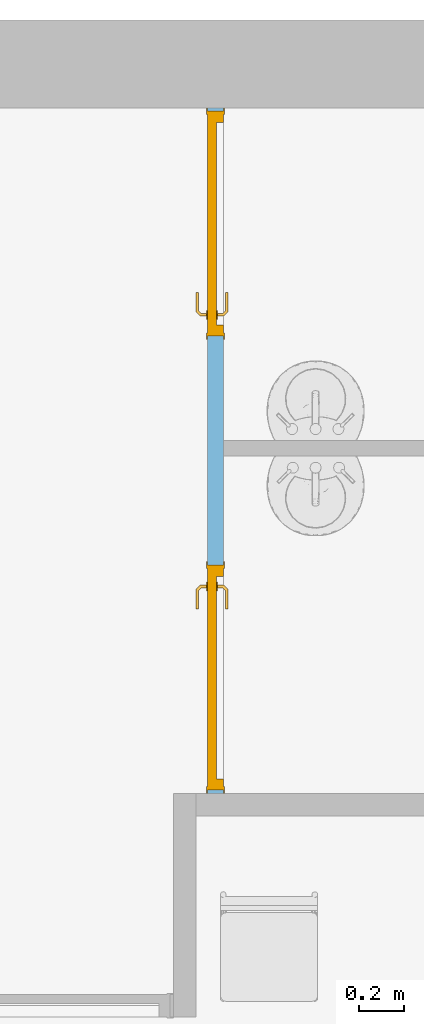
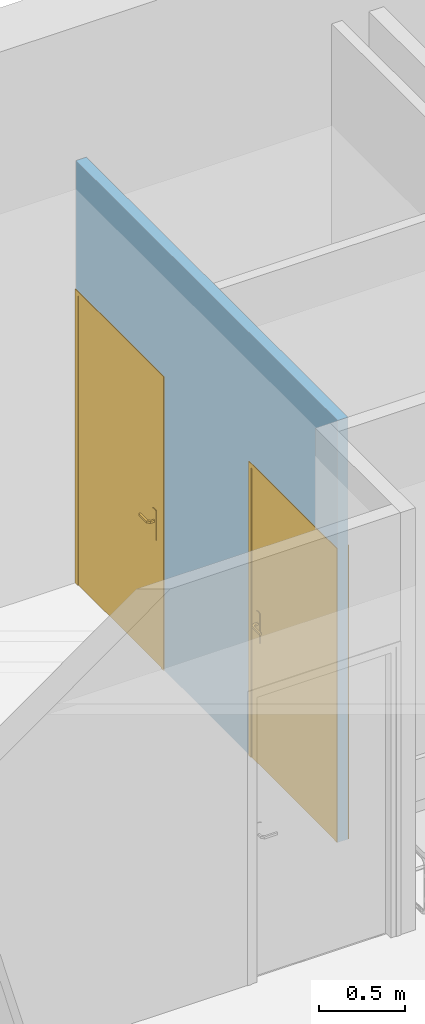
# One storey, part 24 of 32: 2 doors, 2 openings, plus 1 element that does not belong to this part.
"""IFC2X3 building model written with IfcOpenShell, lengths in metres."""

from ifc_helpers import new_model, entity, si_unit, converted_unit, derived_unit, direction, frame, frame_2d, origin, origin_2d_with_axis, place, context, subcontext, project, spatial, polyline, circle_curve, parameter, trimmed, segment, composite_curve, rectangle, outline, extrude, faceted_brep, source, transform, mapped, material, material_list, layer, layer_set, layer_usage, type_object, type_shapes, element, fill, save


model = new_model("IFC2X3")

# Units and contexts
model_context = context("Model", 3, precision=1e-05, world=origin(), true_north=direction((6.12303176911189e-17, 1.0)))
plan_context = context("Plan", 3, precision=1e-05, world=origin(), true_north=direction((6.12303176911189e-17, 1.0)))
body_context = subcontext(model_context, "Body", "Model", "MODEL_VIEW")
ifc_project = project(units=[si_unit("LENGTHUNIT", "METRE"), si_unit("AREAUNIT", "SQUARE_METRE"), si_unit("VOLUMEUNIT", "CUBIC_METRE"), converted_unit("PLANEANGLEUNIT", "DEGREE", entity("IfcRatioMeasure", 0.0174532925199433), si_unit("PLANEANGLEUNIT", "RADIAN"), dimensions=[0, 0, 0, 0, 0, 0, 0]), si_unit("MASSUNIT", "GRAM", prefix="KILO"), derived_unit("MASSDENSITYUNIT", [(si_unit("MASSUNIT", "GRAM", prefix="KILO"), 1), (si_unit("LENGTHUNIT", "METRE"), -3)]), derived_unit("MOMENTOFINERTIAUNIT", [(si_unit("LENGTHUNIT", "METRE"), 4)]), si_unit("TIMEUNIT", "SECOND"), si_unit("FREQUENCYUNIT", "HERTZ"), si_unit("THERMODYNAMICTEMPERATUREUNIT", "DEGREE_CELSIUS"), derived_unit("THERMALTRANSMITTANCEUNIT", [(si_unit("MASSUNIT", "GRAM", prefix="KILO"), 1), (si_unit("THERMODYNAMICTEMPERATUREUNIT", "KELVIN"), -1), (si_unit("TIMEUNIT", "SECOND"), -3)]), derived_unit("VOLUMETRICFLOWRATEUNIT", [(si_unit("LENGTHUNIT", "METRE"), 3), (si_unit("TIMEUNIT", "SECOND"), -1)]), si_unit("ELECTRICCURRENTUNIT", "AMPERE"), si_unit("ELECTRICVOLTAGEUNIT", "VOLT"), si_unit("POWERUNIT", "WATT"), si_unit("FORCEUNIT", "NEWTON", prefix="KILO"), si_unit("ILLUMINANCEUNIT", "LUX"), si_unit("LUMINOUSFLUXUNIT", "LUMEN"), si_unit("LUMINOUSINTENSITYUNIT", "CANDELA"), derived_unit("USERDEFINED", [(si_unit("MASSUNIT", "GRAM", prefix="KILO"), -1), (si_unit("LENGTHUNIT", "METRE"), -2), (si_unit("TIMEUNIT", "SECOND"), 3), (si_unit("LUMINOUSFLUXUNIT", "LUMEN"), 1)]), derived_unit("LINEARVELOCITYUNIT", [(si_unit("LENGTHUNIT", "METRE"), 1), (si_unit("TIMEUNIT", "SECOND"), -1)]), si_unit("PRESSUREUNIT", "PASCAL"), derived_unit("USERDEFINED", [(si_unit("LENGTHUNIT", "METRE"), -2), (si_unit("MASSUNIT", "GRAM", prefix="KILO"), 1), (si_unit("TIMEUNIT", "SECOND"), -2)]), derived_unit("LINEARFORCEUNIT", [(si_unit("MASSUNIT", "GRAM", prefix="KILO"), 1), (si_unit("LENGTHUNIT", "METRE"), 1), (si_unit("TIMEUNIT", "SECOND"), -2), (si_unit("LENGTHUNIT", "METRE"), -1)]), derived_unit("PLANARFORCEUNIT", [(si_unit("MASSUNIT", "GRAM", prefix="KILO"), 1), (si_unit("LENGTHUNIT", "METRE"), 1), (si_unit("TIMEUNIT", "SECOND"), -2), (si_unit("LENGTHUNIT", "METRE"), -2)])], contexts=[model_context, plan_context])

# Site, building, storey
site_placement = place(None, origin())
site = spatial("IfcSite", under=ifc_project, at=site_placement, Name="Default", CompositionType="ELEMENT")
building_placement = place(site_placement, origin())
building = spatial("IfcBuilding", under=site, at=building_placement, CompositionType="ELEMENT")
storey_placement = place(building_placement, origin())
storey = spatial("IfcBuildingStorey", under=building, at=storey_placement, Name="0 Mairie RDC 0.00", CompositionType="ELEMENT", Elevation=-1.94916083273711e-14)

# Wall, openings, doors
ifc_material_1 = material(Name="Plâtre")
ifc_layer_1 = layer(ifc_material_1, 0.01)
ifc_material_2 = material(Name="Maçonnerie - Isolant")
ifc_layer_2 = layer(ifc_material_2, 0.05)
ifc_layer_3 = layer(ifc_material_1, 0.01)
ifc_layer_set = layer_set([ifc_layer_1, ifc_layer_2, ifc_layer_3], Name="Mur de base:A cloison placostil 72 sèche")
ifc_layer_usage = layer_usage(ifc_layer_set, "AXIS2", "NEGATIVE", 0.035)
wall_type = type_object("IfcWallType", Name="Murs : Mur de base : A cloison placostil 72 sèche", PredefinedType="STANDARD", material=ifc_layer_set)
wall_placement = place(storey_placement, frame((-15.9809503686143, -1.97276374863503, 0.0), z_axis=(0.0, 0.0, 1.0), x_axis=(0.0, -1.0, 0.0)))
wall = element("IfcWallStandardCase", 1, at=wall_placement, inside=storey, type_object=wall_type, material=ifc_layer_usage, Name="Murs : Mur de base : A cloison placostil 72 sèche", ObjectType="Mur de base:A cloison placostil 72 sèche", context=body_context, shape_type="SweptSolid", body=[
    extrude(rectangle(XDim=3.04715817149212, YDim=0.0700000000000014, at=frame_2d((1.52357908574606, -1.73472347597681e-17), x_axis=(-1.0, 0.0))), origin(), (0.0, 0.0, 1.0), 3.0),
])
opening_1_placement = place(wall_placement, frame((1.01499999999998, 0.0349999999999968, 0.0)))
opening_1 = element("IfcOpeningElement", 2, at=opening_1_placement, cuts=wall, Name="Portes : Int. Simple : PP (0.89m x 2.04m):1", ObjectType="Opening", context=body_context, shape_type="SweptSolid", body=[
    extrude(rectangle(XDim=2.075, YDim=1.0, at=frame_2d((1.0375, 0.5), x_axis=(1.0, 0.0))), frame((0.0, 0.0, 0.0), z_axis=(0.0, -1.0, 0.0), x_axis=(0.0, 0.0, 1.0)), (0.0, 0.0, 1.0), 0.07),
])
opening_2_placement = place(wall_placement, frame((3.03215817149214, 0.0349999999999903, 0.0)))
opening_2 = element("IfcOpeningElement", 3, at=opening_2_placement, cuts=wall, Name="Portes : Int. Simple : PP (0.89m x 2.04m):1", ObjectType="Opening", context=body_context, shape_type="SweptSolid", body=[
    extrude(rectangle(XDim=2.075, YDim=1.0, at=frame_2d((1.0375, 0.5), x_axis=(1.0, 0.0))), frame((0.0, 0.0, 0.0), z_axis=(0.0, -1.0, 0.0), x_axis=(0.0, 0.0, 1.0)), (0.0, 0.0, 1.0), 0.07),
])
ifc_material_3 = material(Name="Finition Peinture - Blanc satiné")
ifc_material_4 = material(Name="Bois - Cadre de porte")
ifc_material_list_1 = material_list([ifc_material_3, ifc_material_4])
ifc_material_5 = material(Name="Bois - Panneau de porte")
ifc_material_list_2 = material_list([ifc_material_4, ifc_material_5, ifc_material_3])
door_style_1 = type_object("IfcDoorStyle", Name="Portes : Int. Simple : PP (0.89m x 2.04m)", ConstructionType="NOTDEFINED", OperationType="NOTDEFINED", ParameterTakesPrecedence=False, Sizeable=False, material=ifc_material_list_2)
shared_shape_1 = source(origin(), body_context, "Body", "SolidModel", [
    extrude(outline(composite_curve([segment(polyline([(-0.104999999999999, -0.02), (0.104999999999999, -0.0199999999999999)]), True, "CONTINUOUS"), segment(trimmed(circle_curve(frame_2d((0.0703589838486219, 0.0), x_axis=(0.0, 1.0)), 0.0399999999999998), [parameter(240.000000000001)], [parameter(300.0)], True, "PARAMETER"), True, "CONTINUOUS"), segment(polyline([(0.104999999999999, 0.0199999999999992), (-0.105, 0.0200000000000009)]), True, "CONTINUOUS"), segment(trimmed(circle_curve(frame_2d((-0.0703589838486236, 0.0), x_axis=(0.0, 1.0)), 0.0399999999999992), [parameter(59.9999999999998)], [parameter(120.0)], True, "PARAMETER"), True, "CONTINUOUS")], self_intersect=False)), frame((0.975000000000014, 0.0, 0.975000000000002), z_axis=(0.0, -1.0, 0.0), x_axis=(0.0, 0.0, 1.0)), (0.0, 0.0, 1.0), 0.00499999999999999),
    extrude(outline(composite_curve([segment(polyline([(-0.105, -0.02), (0.105, -0.02)]), True, "CONTINUOUS"), segment(trimmed(circle_curve(frame_2d((0.0703589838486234, 0.0), x_axis=(0.0, -1.0)), 0.0399999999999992), [parameter(59.9999999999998)], [parameter(120.0)], True, "PARAMETER"), True, "CONTINUOUS"), segment(polyline([(0.104999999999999, 0.0200000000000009), (-0.105, 0.0199999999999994)]), True, "CONTINUOUS"), segment(trimmed(circle_curve(frame_2d((-0.0703589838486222, 0.0), x_axis=(0.0, -1.0)), 0.0399999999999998), [parameter(240.0)], [parameter(300.0)], True, "PARAMETER"), True, "CONTINUOUS")], self_intersect=False)), frame((0.975000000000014, 0.0449999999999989, 0.975000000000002), z_axis=(0.0, -1.0, 0.0), x_axis=(0.0, 0.0, -1.0)), (0.0, 0.0, 1.0), 0.00500000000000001),
    extrude(rectangle(XDim=0.93, YDim=0.04, at=origin_2d_with_axis()), frame((0.570000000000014, 0.02, 0.0), z_axis=(0.0, 0.0, 1.0), x_axis=(-1.0, 0.0, 0.0)), (0.0, 0.0, 1.0), 2.04),
    extrude(outline(polyline([(0.484999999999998, -1.03750000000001), (0.514999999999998, -1.03750000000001), (0.514999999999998, 1.0525), (-0.514999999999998, 1.0525), (-0.514999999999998, -1.0375), (-0.484999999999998, -1.03750000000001), (-0.484999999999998, 1.02250000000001), (0.484999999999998, 1.02250000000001), (0.484999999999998, -1.03750000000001)])), frame((0.570000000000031, 0.0749999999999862, 1.03750000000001), z_axis=(0.0, -1.0, 0.0), x_axis=(1.0, 0.0, 0.0)), (0.0, 0.0, 1.0), 0.00500000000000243),
    extrude(outline(polyline([(0.484999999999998, -1.03750000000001), (0.514999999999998, -1.03750000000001), (0.514999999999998, 1.0525), (-0.514999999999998, 1.0525), (-0.514999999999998, -1.0375), (-0.484999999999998, -1.03750000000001), (-0.484999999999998, 1.02250000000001), (0.484999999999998, 1.02250000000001), (0.484999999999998, -1.03750000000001)])), frame((0.570000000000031, 0.0, 1.03750000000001), z_axis=(0.0, -1.0, 0.0), x_axis=(1.0, 0.0, 0.0)), (0.0, 0.0, 1.0), 0.00499999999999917),
    faceted_brep([(0.972974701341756, -0.00500000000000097, 1.00778044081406), (0.977025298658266, -0.00500000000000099, 1.00778044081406), (0.981000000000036, -0.00500000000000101, 1.00699999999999), (0.981000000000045, -0.00500000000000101, 0.992999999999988), (0.977025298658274, -0.00500000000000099, 0.99221955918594), (0.972974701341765, -0.00500000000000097, 0.992219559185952), (0.968999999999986, -0.00500000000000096, 0.993000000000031), (0.968999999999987, -0.00500000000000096, 1.007), (0.977025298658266, -0.0310045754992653, 1.00778044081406), (0.981000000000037, -0.0326509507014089, 1.007), (0.972974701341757, -0.029326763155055, 1.00778044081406), (0.959298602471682, -0.0430028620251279, 1.00778044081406), (0.960976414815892, -0.0470534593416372, 1.00778044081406), (0.968999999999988, -0.0276803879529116, 1.007), (0.968999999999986, -0.0276803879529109, 0.993000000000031), (0.972974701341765, -0.0293267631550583, 0.992219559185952), (0.977025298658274, -0.0310045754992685, 0.99221955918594), (0.960976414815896, -0.047053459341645, 0.99221955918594), (0.959298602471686, -0.0430028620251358, 0.992219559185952), (0.981000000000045, -0.0326509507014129, 0.992999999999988), (0.962622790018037, -0.0510281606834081, 1.007), (0.957652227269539, -0.0390281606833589, 1.007), (0.957652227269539, -0.0390281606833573, 0.993000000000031), (0.96262279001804, -0.0510281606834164, 0.992999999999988), (0.874981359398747, -0.0510281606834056, 1.007), (0.874981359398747, -0.0470534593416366, 1.00778044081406), (0.874981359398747, -0.0430028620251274, 1.00778044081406), (0.874981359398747, -0.039028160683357, 1.00699999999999), (0.874981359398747, -0.0390281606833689, 0.993000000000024), (0.874981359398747, -0.0430028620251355, 0.992219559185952), (0.874981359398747, -0.0470534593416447, 0.99221955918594), (0.874981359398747, -0.0510281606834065, 0.992999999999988), (0.917139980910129, -0.0450281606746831, 1.0078786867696), (0.922692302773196, -0.0510281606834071, 1.007), (0.916316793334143, -0.039028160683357, 1.007), (0.916316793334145, -0.039028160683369, 0.993000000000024), (0.917139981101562, -0.0450281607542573, 0.992121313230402), (0.922692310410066, -0.0510281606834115, 0.992999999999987)], [[[0, 1, 2, 3, 4, 5, 6, 7]], [[2, 1, 8, 9]], [[1, 0, 10, 11, 12, 8]], [[0, 7, 13, 10]], [[14, 13, 7, 6]], [[5, 15, 14, 6]], [[5, 4, 16, 17, 18, 15]], [[3, 19, 16, 4]], [[9, 19, 3, 2]], [[9, 8, 12, 20]], [[10, 13, 21, 11]], [[22, 21, 13, 14]], [[14, 15, 18, 22]], [[16, 19, 23, 17]], [[20, 23, 19, 9]], [[24, 25, 26, 27, 28, 29, 30, 31]], [[32, 25, 33]], [[33, 25, 24]], [[33, 20, 12]], [[11, 34, 32]], [[34, 11, 21]], [[27, 26, 34]], [[32, 26, 25]], [[32, 34, 26]], [[32, 33, 12]], [[11, 32, 12]], [[21, 22, 35, 28, 27, 34]], [[36, 29, 35]], [[30, 36, 37]], [[18, 35, 22]], [[29, 28, 35]], [[30, 37, 31]], [[37, 17, 23]], [[36, 17, 37]], [[36, 18, 17]], [[36, 35, 18]], [[29, 36, 30]], [[23, 20, 33, 24, 31, 37]]]),
    faceted_brep([(0.972974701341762, 0.044999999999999, 0.992219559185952), (0.977025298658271, 0.044999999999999, 0.99221955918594), (0.981000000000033, 0.044999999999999, 0.992999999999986), (0.981000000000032, 0.044999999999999, 1.007), (0.977025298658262, 0.044999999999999, 1.00778044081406), (0.972974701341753, 0.044999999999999, 1.00778044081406), (0.968999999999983, 0.044999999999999, 1.007), (0.968999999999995, 0.044999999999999, 0.993000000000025), (0.968999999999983, 0.0674852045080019, 1.007), (0.968999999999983, 0.067485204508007, 0.993000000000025), (0.972974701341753, 0.0691315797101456, 1.00778044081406), (0.977025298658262, 0.0708093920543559, 1.00778044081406), (0.960838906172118, 0.0869957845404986, 1.00778044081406), (0.959161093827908, 0.0829451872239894, 1.00778044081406), (0.981000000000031, 0.0724557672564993, 1.007), (0.981000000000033, 0.0724557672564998, 0.992999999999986), (0.977025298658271, 0.0708093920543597, 0.99221955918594), (0.972974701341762, 0.0691315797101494, 0.992219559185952), (0.959161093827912, 0.0829451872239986, 0.992219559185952), (0.960838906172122, 0.0869957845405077, 0.99221955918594), (0.957514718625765, 0.0789704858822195, 1.007), (0.957514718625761, 0.0789704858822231, 0.993000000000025), (0.962485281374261, 0.0909704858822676, 1.007), (0.962485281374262, 0.090970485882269, 0.992999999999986), (0.874954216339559, 0.08294518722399, 1.00778044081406), (0.874954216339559, 0.0869957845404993, 1.00778044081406), (0.874954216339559, 0.0909704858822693, 1.007), (0.874954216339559, 0.0909704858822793, 0.992999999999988), (0.874954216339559, 0.0869957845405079, 0.99221955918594), (0.874954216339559, 0.0829451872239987, 0.992219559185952), (0.874954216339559, 0.0789704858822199, 0.993000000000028), (0.874954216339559, 0.078970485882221, 1.007), (0.916234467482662, 0.0789704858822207, 1.007), (0.916234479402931, 0.0789704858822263, 0.993000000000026), (0.917057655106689, 0.0849704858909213, 1.0078786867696), (0.922554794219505, 0.0909704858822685, 1.007), (0.922554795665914, 0.0909704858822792, 0.992999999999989), (0.917057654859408, 0.0849704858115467, 0.992121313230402)], [[[0, 1, 2, 3, 4, 5, 6, 7]], [[8, 9, 7, 6]], [[5, 10, 8, 6]], [[5, 4, 11, 12, 13, 10]], [[3, 14, 11, 4]], [[14, 3, 2, 15]], [[2, 1, 16, 15]], [[1, 0, 17, 18, 19, 16]], [[0, 7, 9, 17]], [[20, 21, 9, 8]], [[8, 10, 13, 20]], [[14, 22, 12, 11]], [[23, 22, 14, 15]], [[15, 16, 19, 23]], [[17, 9, 21, 18]], [[24, 25, 26, 27, 28, 29, 30, 31]], [[21, 20, 32, 31, 30, 33]], [[34, 24, 32]], [[25, 34, 35]], [[13, 32, 20]], [[24, 31, 32]], [[25, 35, 26]], [[35, 12, 22]], [[34, 12, 35]], [[34, 13, 12]], [[34, 32, 13]], [[24, 34, 25]], [[22, 23, 36, 27, 26, 35]], [[37, 28, 36]], [[36, 28, 27]], [[36, 23, 19]], [[18, 33, 37]], [[33, 18, 21]], [[30, 29, 33]], [[37, 29, 28]], [[37, 33, 29]], [[37, 36, 19]], [[18, 37, 19]]]),
    faceted_brep([(1.07000000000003, 0.0, 0.0), (1.03500000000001, 0.0, 0.0), (1.03500000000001, 0.04, 0.0), (1.02000000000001, 0.04, 0.0), (1.02000000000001, 0.0699999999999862, 0.0), (1.07000000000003, 0.0699999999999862, 0.0), (1.07000000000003, 0.0699999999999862, 2.07500000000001), (1.07000000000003, 0.0, 2.07500000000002), (1.02000000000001, 0.0699999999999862, 2.025), (0.120000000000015, 0.0699999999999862, 2.025), (0.120000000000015, 0.0699999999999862, 0.0), (0.0699999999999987, 0.0699999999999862, 0.0), (0.0699999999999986, 0.0699999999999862, 2.07500000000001), (1.02000000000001, 0.04, 2.025), (1.03500000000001, 0.04, 2.04), (0.105000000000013, 0.04, 2.04), (0.105000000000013, 0.04, 0.0), (0.120000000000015, 0.04, 0.0), (0.120000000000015, 0.04, 2.025), (1.03500000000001, 0.0, 2.04), (0.0699999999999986, 0.0, 2.07500000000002), (0.0699999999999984, 0.0, 0.0), (0.105000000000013, 0.0, 0.0), (0.105000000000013, 0.0, 2.04)], [[[0, 1, 2, 3, 4, 5]], [[5, 6, 7, 0]], [[4, 8, 9, 10, 11, 12, 6, 5]], [[3, 13, 8, 4]], [[2, 14, 15, 16, 17, 18, 13, 3]], [[1, 19, 14, 2]], [[0, 7, 20, 21, 22, 23, 19, 1]], [[12, 11, 21, 20]], [[21, 11, 10, 17, 16, 22]], [[18, 17, 10, 9]], [[23, 22, 16, 15]], [[6, 12, 20, 7]], [[13, 18, 9, 8]], [[19, 23, 15, 14]]]),
])
type_shapes(door_style_1, [shared_shape_1])
door_1_placement = place(opening_1_placement, frame((-1.07000000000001, -0.0699999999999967, 0.0)))
door_1 = element("IfcDoor", 4, at=door_1_placement, inside=storey, type_object=door_style_1, material=ifc_material_list_1, Name="Portes : Int. Simple : PP (0.89m x 2.04m)", ObjectType="Int. Simple:PP (0.89m x 2.04m)", OverallHeight=2.075, OverallWidth=1.0, context=body_context, shape_type="MappedRepresentation", body=[
    mapped(shared_shape_1, transform((0.0, 0.0, 0.0), scale=1.0)),
])
fill(opening_1, door_1)
ifc_material_list_3 = material_list([ifc_material_3, ifc_material_4])
ifc_material_list_4 = material_list([ifc_material_5, ifc_material_4, ifc_material_3])
door_style_2 = type_object("IfcDoorStyle", Name="Portes : Int. Simple : PP (0.89m x 2.04m)", ConstructionType="NOTDEFINED", OperationType="NOTDEFINED", ParameterTakesPrecedence=False, Sizeable=False, material=ifc_material_list_4)
shared_shape_2 = source(origin(), body_context, "Body", "SolidModel", [
    extrude(outline(composite_curve([segment(polyline([(-0.104999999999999, -0.0199999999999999), (0.104999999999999, -0.0199999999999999)]), True, "CONTINUOUS"), segment(trimmed(circle_curve(frame_2d((0.0703589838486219, 0.0), x_axis=(0.0, 1.0)), 0.0399999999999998), [parameter(240.000000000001)], [parameter(300.0)], True, "PARAMETER"), True, "CONTINUOUS"), segment(polyline([(0.104999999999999, 0.0199999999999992), (-0.105, 0.020000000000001)]), True, "CONTINUOUS"), segment(trimmed(circle_curve(frame_2d((-0.0703589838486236, 0.0), x_axis=(0.0, 1.0)), 0.0399999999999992), [parameter(59.9999999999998)], [parameter(120.0)], True, "PARAMETER"), True, "CONTINUOUS")], self_intersect=False)), frame((0.0949999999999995, -0.00500000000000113, 0.975000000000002), z_axis=(0.0, 1.0, 0.0), x_axis=(0.0, 0.0, 1.0)), (0.0, 0.0, 1.0), 0.00499999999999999),
    extrude(outline(composite_curve([segment(polyline([(-0.105, -0.0200000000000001), (0.105, -0.0200000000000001)]), True, "CONTINUOUS"), segment(trimmed(circle_curve(frame_2d((0.0703589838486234, 0.0), x_axis=(0.0, -1.0)), 0.0399999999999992), [parameter(59.9999999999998)], [parameter(120.0)], True, "PARAMETER"), True, "CONTINUOUS"), segment(polyline([(0.104999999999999, 0.0200000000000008), (-0.105, 0.0199999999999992)]), True, "CONTINUOUS"), segment(trimmed(circle_curve(frame_2d((-0.0703589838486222, 0.0), x_axis=(0.0, -1.0)), 0.0399999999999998), [parameter(240.0)], [parameter(300.0)], True, "PARAMETER"), True, "CONTINUOUS")], self_intersect=False)), frame((0.0949999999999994, 0.0399999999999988, 0.975000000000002), z_axis=(0.0, 1.0, 0.0), x_axis=(0.0, 0.0, -1.0)), (0.0, 0.0, 1.0), 0.00500000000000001),
    extrude(rectangle(XDim=0.04, YDim=0.93, at=origin_2d_with_axis()), frame((0.5, 0.02, 0.0), z_axis=(0.0, 0.0, 1.0), x_axis=(0.0, -1.0, 0.0)), (0.0, 0.0, 1.0), 2.04),
    extrude(outline(polyline([(-1.03750000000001, -0.514999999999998), (1.0525, -0.514999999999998), (1.0525, 0.514999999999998), (-1.0375, 0.514999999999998), (-1.03750000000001, 0.484999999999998), (1.02250000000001, 0.484999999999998), (1.02250000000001, -0.484999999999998), (-1.03750000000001, -0.484999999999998), (-1.03750000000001, -0.514999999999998)])), frame((0.499999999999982, 0.0699999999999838, 1.03750000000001), z_axis=(0.0, 1.0, 0.0), x_axis=(0.0, 0.0, 1.0)), (0.0, 0.0, 1.0), 0.00500000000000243),
    extrude(outline(polyline([(-1.03750000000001, -0.514999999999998), (1.0525, -0.514999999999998), (1.0525, 0.514999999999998), (-1.0375, 0.514999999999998), (-1.03750000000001, 0.484999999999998), (1.02250000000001, 0.484999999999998), (1.02250000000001, -0.484999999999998), (-1.03750000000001, -0.484999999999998), (-1.03750000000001, -0.514999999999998)])), frame((0.499999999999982, -0.00499999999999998, 1.03750000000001), z_axis=(0.0, 1.0, 0.0), x_axis=(0.0, 0.0, 1.0)), (0.0, 0.0, 1.0), 0.00499999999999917),
    faceted_brep([(0.0929747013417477, -0.005000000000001, 1.00778044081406), (0.097025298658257, -0.00500000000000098, 1.00778044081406), (0.101000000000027, -0.00500000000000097, 1.00699999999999), (0.101000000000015, -0.00500000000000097, 0.993000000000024), (0.0970252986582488, -0.00500000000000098, 0.992219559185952), (0.0929747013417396, -0.005000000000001, 0.99221955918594), (0.0889999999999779, -0.00500000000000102, 0.992999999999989), (0.0889999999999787, -0.00500000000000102, 1.007), (0.0889999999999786, -0.0326509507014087, 1.007), (0.0929747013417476, -0.0310045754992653, 1.00778044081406), (0.109023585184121, -0.0470534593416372, 1.00778044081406), (0.110701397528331, -0.043002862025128, 1.00778044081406), (0.0970252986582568, -0.029326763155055, 1.00778044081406), (0.101000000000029, -0.0276803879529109, 1.007), (0.101000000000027, -0.0276803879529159, 0.993000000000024), (0.0970252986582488, -0.0293267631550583, 0.992219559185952), (0.110701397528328, -0.0430028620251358, 0.992219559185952), (0.109023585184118, -0.047053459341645, 0.99221955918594), (0.0929747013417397, -0.0310045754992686, 0.99221955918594), (0.0889999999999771, -0.0326509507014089, 0.992999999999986), (0.107377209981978, -0.0510281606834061, 1.007), (0.112347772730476, -0.0390281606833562, 1.007), (0.112347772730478, -0.0390281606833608, 0.993000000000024), (0.107377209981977, -0.0510281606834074, 0.992999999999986), (0.195018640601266, -0.0510281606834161, 0.992999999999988), (0.195018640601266, -0.0470534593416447, 0.99221955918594), (0.195018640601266, -0.0430028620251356, 0.992219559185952), (0.195018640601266, -0.039028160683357, 0.993000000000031), (0.195018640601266, -0.0390281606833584, 1.007), (0.195018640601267, -0.0430028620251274, 1.00778044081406), (0.195018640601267, -0.0470534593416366, 1.00778044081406), (0.195018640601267, -0.0510281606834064, 1.00699999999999), (0.147307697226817, -0.0510281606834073, 1.007), (0.152860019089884, -0.0450281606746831, 1.0078786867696), (0.15368320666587, -0.0390281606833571, 1.007), (0.153683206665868, -0.039028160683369, 0.993000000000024), (0.152860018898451, -0.0450281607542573, 0.992121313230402), (0.147307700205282, -0.0510281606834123, 0.992999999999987)], [[[0, 1, 2, 3, 4, 5, 6, 7]], [[8, 9, 0, 7]], [[9, 10, 11, 12, 1, 0]], [[12, 13, 2, 1]], [[3, 2, 13, 14]], [[14, 15, 4, 3]], [[15, 16, 17, 18, 5, 4]], [[18, 19, 6, 5]], [[7, 6, 19, 8]], [[20, 10, 9, 8]], [[11, 21, 13, 12]], [[14, 13, 21, 22]], [[22, 16, 15, 14]], [[17, 23, 19, 18]], [[8, 19, 23, 20]], [[24, 25, 26, 27, 28, 29, 30, 31]], [[32, 30, 33]], [[31, 30, 32]], [[10, 20, 32]], [[33, 34, 11]], [[21, 11, 34]], [[34, 29, 28]], [[30, 29, 33]], [[29, 34, 33]], [[10, 32, 33]], [[10, 33, 11]], [[22, 21, 34, 28, 27, 35]], [[35, 26, 36]], [[37, 36, 25]], [[22, 35, 16]], [[35, 27, 26]], [[24, 37, 25]], [[23, 17, 37]], [[37, 17, 36]], [[17, 16, 36]], [[16, 35, 36]], [[25, 36, 26]], [[20, 23, 37, 24, 31, 32]]]),
    faceted_brep([(0.092974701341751, 0.044999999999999, 1.00778044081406), (0.0889999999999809, 0.044999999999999, 1.007), (0.0889999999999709, 0.044999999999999, 0.992999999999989), (0.0929747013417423, 0.044999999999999, 0.99221955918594), (0.0970252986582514, 0.044999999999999, 0.992219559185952), (0.10100000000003, 0.044999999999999, 0.993000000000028), (0.101000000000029, 0.044999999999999, 1.007), (0.0970252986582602, 0.044999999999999, 1.00778044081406), (0.10100000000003, 0.067485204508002, 0.993000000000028), (0.10100000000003, 0.0674852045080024, 1.007), (0.0970252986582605, 0.0691315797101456, 1.00778044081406), (0.110838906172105, 0.0829451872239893, 1.00778044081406), (0.109161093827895, 0.0869957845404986, 1.00778044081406), (0.0929747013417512, 0.0708093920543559, 1.00778044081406), (0.088999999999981, 0.0724557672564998, 1.007), (0.0889999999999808, 0.072455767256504, 0.992999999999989), (0.092974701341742, 0.0708093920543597, 0.99221955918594), (0.109161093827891, 0.0869957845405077, 0.99221955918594), (0.110838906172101, 0.0829451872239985, 0.992219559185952), (0.0970252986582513, 0.0691315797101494, 0.992219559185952), (0.112485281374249, 0.0789704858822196, 0.993000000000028), (0.112485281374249, 0.0789704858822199, 1.007), (0.107514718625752, 0.0909704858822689, 1.007), (0.107514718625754, 0.090970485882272, 0.992999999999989), (0.195045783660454, 0.078970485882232, 0.993000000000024), (0.195045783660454, 0.0829451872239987, 0.992219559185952), (0.195045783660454, 0.0869957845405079, 0.99221955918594), (0.195045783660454, 0.0909704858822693, 0.992999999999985), (0.195045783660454, 0.0909704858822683, 1.007), (0.195045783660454, 0.0869957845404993, 1.00778044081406), (0.195045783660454, 0.08294518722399, 1.00778044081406), (0.195045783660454, 0.0789704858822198, 1.007), (0.153765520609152, 0.0789704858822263, 0.993000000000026), (0.153765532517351, 0.0789704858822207, 1.007), (0.152942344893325, 0.0849704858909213, 1.0078786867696), (0.147445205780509, 0.0909704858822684, 1.007), (0.147445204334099, 0.0909704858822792, 0.992999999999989), (0.152942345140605, 0.0849704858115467, 0.992121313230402)], [[[0, 1, 2, 3, 4, 5, 6, 7]], [[6, 5, 8, 9]], [[9, 10, 7, 6]], [[10, 11, 12, 13, 0, 7]], [[13, 14, 1, 0]], [[2, 1, 14, 15]], [[15, 16, 3, 2]], [[16, 17, 18, 19, 4, 3]], [[19, 8, 5, 4]], [[9, 8, 20, 21]], [[21, 11, 10, 9]], [[12, 22, 14, 13]], [[15, 14, 22, 23]], [[23, 17, 16, 15]], [[18, 20, 8, 19]], [[24, 25, 26, 27, 28, 29, 30, 31]], [[21, 20, 32, 24, 31, 33]], [[33, 30, 34]], [[35, 34, 29]], [[21, 33, 11]], [[33, 31, 30]], [[28, 35, 29]], [[22, 12, 35]], [[35, 12, 34]], [[12, 11, 34]], [[11, 33, 34]], [[29, 34, 30]], [[22, 35, 28, 27, 36, 23]], [[36, 26, 37]], [[27, 26, 36]], [[17, 23, 36]], [[37, 32, 18]], [[20, 18, 32]], [[32, 25, 24]], [[26, 25, 37]], [[25, 32, 37]], [[17, 36, 37]], [[17, 37, 18]]]),
    faceted_brep([(0.0, 0.0, 0.0), (0.0, 0.0699999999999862, 0.0), (0.0500000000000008, 0.0699999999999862, 0.0), (0.0500000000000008, 0.04, 0.0), (0.0349999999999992, 0.04, 0.0), (0.0349999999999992, 0.0, 0.0), (0.0, 0.0, 2.07500000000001), (0.0, 0.0699999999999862, 2.07500000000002), (1.0, 0.0699999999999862, 2.07500000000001), (1.0, 0.0699999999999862, 0.0), (0.949999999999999, 0.0699999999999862, 0.0), (0.949999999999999, 0.0699999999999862, 2.025), (0.0500000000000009, 0.0699999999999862, 2.025), (0.0500000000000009, 0.04, 2.025), (0.949999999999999, 0.04, 2.025), (0.949999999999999, 0.04, 0.0), (0.965, 0.04, 0.0), (0.965000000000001, 0.04, 2.04), (0.0349999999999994, 0.04, 2.04), (0.0349999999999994, 0.0, 2.04), (0.965, 0.0, 2.04), (0.965, 0.0, 0.0), (1.0, 0.0, 0.0), (1.0, 0.0, 2.07500000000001)], [[[0, 1, 2, 3, 4, 5]], [[1, 0, 6, 7]], [[2, 1, 7, 8, 9, 10, 11, 12]], [[3, 2, 12, 13]], [[4, 3, 13, 14, 15, 16, 17, 18]], [[5, 4, 18, 19]], [[0, 5, 19, 20, 21, 22, 23, 6]], [[8, 23, 22, 9]], [[22, 21, 16, 15, 10, 9]], [[14, 11, 10, 15]], [[20, 17, 16, 21]], [[7, 6, 23, 8]], [[13, 12, 11, 14]], [[19, 18, 17, 20]]]),
])
type_shapes(door_style_2, [shared_shape_2])
door_2_placement = place(opening_2_placement, frame((-1.0, -0.0699999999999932, 0.0)))
door_2 = element("IfcDoor", 5, at=door_2_placement, inside=storey, type_object=door_style_2, material=ifc_material_list_3, Name="Portes : Int. Simple : PP (0.89m x 2.04m)", ObjectType="Int. Simple:PP (0.89m x 2.04m)", OverallHeight=2.075, OverallWidth=0.999999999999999, context=body_context, shape_type="MappedRepresentation", body=[
    mapped(shared_shape_2, transform((0.0, 0.0, 0.0), scale=1.0)),
])
fill(opening_2, door_2)

save(model, "model.ifc")
